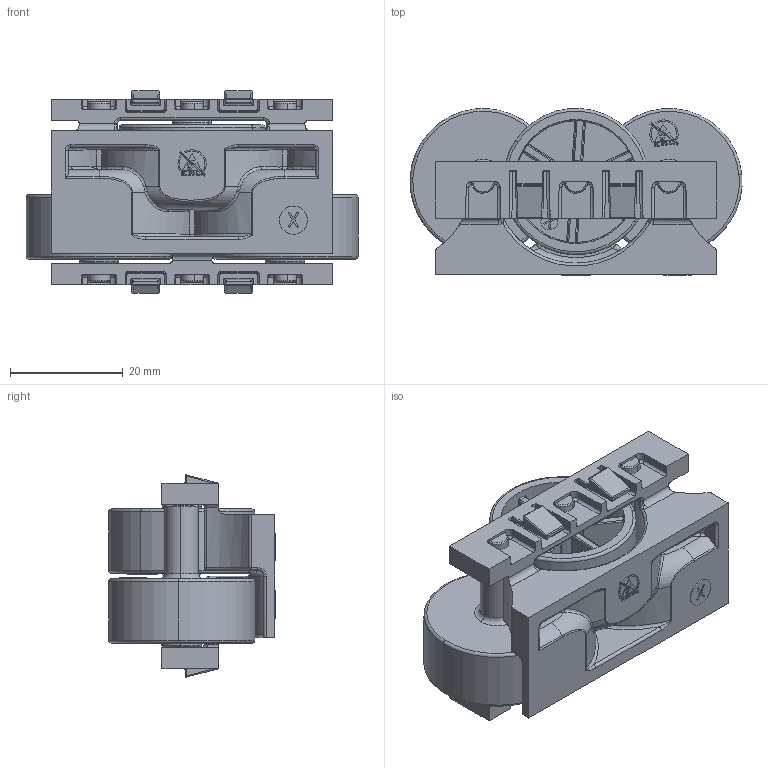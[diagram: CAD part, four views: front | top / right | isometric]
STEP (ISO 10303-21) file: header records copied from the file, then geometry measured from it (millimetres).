
FILE_DESCRIPTION (( 'STEP AP203' ), '1' );
FILE_NAME ('062AEH2691.50.STEP', '2015-09-14T12:28:51', ( 'Fath' ), ( 'Hewlett-Packard Company' ), 'SwSTEP 2.0', 'SolidWorks 2014', '' );
FILE_SCHEMA (( 'CONFIG_CONTROL_DESIGN' ));
Length unit declared in the file: millimetre
Products named in the file (4): 062ACH2691.50_062ACH2691.50; 062AXM_d4 l32; 062RR2891_062RH2611 yellow; 062AEH2691.50
Assembly tree (7 placements, depth 2):
  062AEH2691.50
    062ACH2691.50_062ACH2691.50
    062AXM_d4 l32  x3
    062RR2891_062RH2611 yellow  x3
Bounding box: 58.96 x 29.64 x 35.88 mm (x, y, z)
Volume: 18440.4 mm3; surface area: 21013.9 mm2
Topology: 7 solids, 7 shells, 1658 faces, 4240 edges, 2541 vertices
Faces by surface type: plane 706, cylinder 458, bspline 208, torus 150, sphere 124, cone 12
Entity records: 33825 total; most frequent: CARTESIAN_POINT 10162, ORIENTED_EDGE 5112, DIRECTION 4584, EDGE_CURVE 2556, VERTEX_POINT 1561, AXIS2_PLACEMENT_3D 1559, LINE 1466, VECTOR 1466
